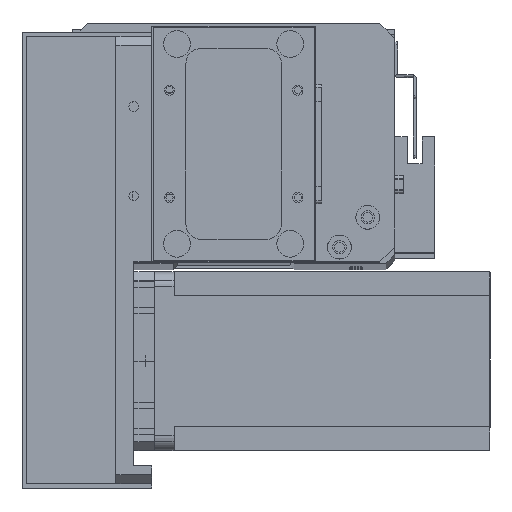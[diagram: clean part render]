
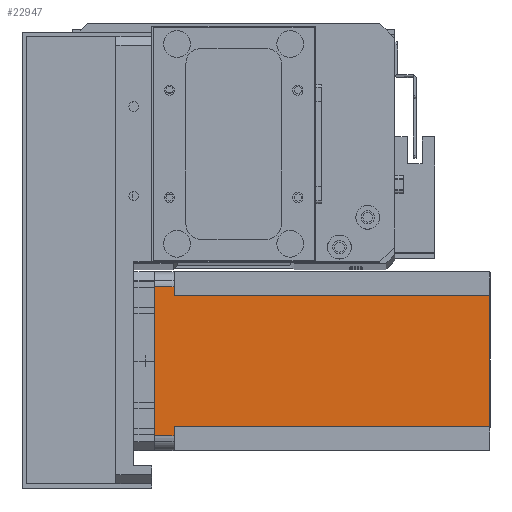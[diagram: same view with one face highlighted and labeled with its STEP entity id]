
A CAD part, top view. The second image highlights one B-rep face of the part: STEP entity #22947.
In plain terms, the highlighted planar face has unit normal (0, 0, 1) as drawn and (0, 1, 0) by its records, which use the part's own axes.
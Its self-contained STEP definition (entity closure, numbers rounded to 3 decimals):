
#138 = VERTEX_POINT ( 'NONE', #23804 ) ;
#524 = ORIENTED_EDGE ( 'NONE', *, *, #19130, .F. ) ;
#577 = ORIENTED_EDGE ( 'NONE', *, *, #17559, .T. ) ;
#1861 = VECTOR ( 'NONE', #8851, 1000. ) ;
#1927 = ORIENTED_EDGE ( 'NONE', *, *, #11285, .T. ) ;
#2486 = CARTESIAN_POINT ( 'NONE',  ( 8., 60., -112.5 ) ) ;
#2564 = CARTESIAN_POINT ( 'NONE',  ( 52., 60., -112.5 ) ) ;
#2831 = VECTOR ( 'NONE', #27248, 1000. ) ;
#4376 = VECTOR ( 'NONE', #10716, 1000. ) ;
#4421 = EDGE_CURVE ( 'NONE', #17792, #24921, #14379, .T. ) ;
#4846 = EDGE_CURVE ( 'NONE', #21705, #19340, #11733, .T. ) ;
#5084 = CARTESIAN_POINT ( 'NONE',  ( 0., 60., -112.5 ) ) ;
#5814 = CARTESIAN_POINT ( 'NONE',  ( 52., 60., -6.5 ) ) ;
#7730 = LINE ( 'NONE', #25384, #1861 ) ;
#8157 = EDGE_CURVE ( 'NONE', #21705, #25019, #26392, .T. ) ;
#8666 = CARTESIAN_POINT ( 'NONE',  ( 5., 60., -112.5 ) ) ;
#8772 = EDGE_LOOP ( 'NONE', ( #30449, #13172, #21158, #524, #577, #10060, #30055, #1927 ) ) ;
#8848 = DIRECTION ( 'NONE',  ( 0., 0., 1. ) ) ;
#8851 = DIRECTION ( 'NONE',  ( -1., 0., 0. ) ) ;
#10039 = CARTESIAN_POINT ( 'NONE',  ( 52., 60., -112.5 ) ) ;
#10060 = ORIENTED_EDGE ( 'NONE', *, *, #20593, .F. ) ;
#10716 = DIRECTION ( 'NONE',  ( -1., 0., 0. ) ) ;
#10817 = CARTESIAN_POINT ( 'NONE',  ( 0., 60., 0. ) ) ;
#11285 = EDGE_CURVE ( 'NONE', #24921, #19340, #14922, .T. ) ;
#11617 = VERTEX_POINT ( 'NONE', #2564 ) ;
#11733 = LINE ( 'NONE', #10817, #4376 ) ;
#12115 = EDGE_CURVE ( 'NONE', #29289, #25019, #17828, .T. ) ;
#12353 = AXIS2_PLACEMENT_3D ( 'NONE', #5084, #28860, #14903 ) ;
#12540 = PLANE ( 'NONE',  #12353 ) ;
#13003 = CARTESIAN_POINT ( 'NONE',  ( 55., 60., -6.5 ) ) ;
#13172 = ORIENTED_EDGE ( 'NONE', *, *, #8157, .T. ) ;
#14379 = LINE ( 'NONE', #25005, #2831 ) ;
#14880 = DIRECTION ( 'NONE',  ( 0., 0., 1. ) ) ;
#14903 = DIRECTION ( 'NONE',  ( 0., 0., 1. ) ) ;
#14922 = LINE ( 'NONE', #8666, #20490 ) ;
#17106 = DIRECTION ( 'NONE',  ( 0., 0., -1. ) ) ;
#17559 = EDGE_CURVE ( 'NONE', #11617, #138, #7730, .T. ) ;
#17792 = VERTEX_POINT ( 'NONE', #28515 ) ;
#17815 = DIRECTION ( 'NONE',  ( 1., 0., 0. ) ) ;
#17828 = LINE ( 'NONE', #20228, #28719 ) ;
#19130 = EDGE_CURVE ( 'NONE', #11617, #29289, #28326, .T. ) ;
#19340 = VERTEX_POINT ( 'NONE', #22583 ) ;
#20228 = CARTESIAN_POINT ( 'NONE',  ( 52., 60., -6.5 ) ) ;
#20320 = VECTOR ( 'NONE', #22536, 1000. ) ;
#20490 = VECTOR ( 'NONE', #8848, 1000. ) ;
#20593 = EDGE_CURVE ( 'NONE', #17792, #138, #23763, .T. ) ;
#21158 = ORIENTED_EDGE ( 'NONE', *, *, #12115, .F. ) ;
#21705 = VERTEX_POINT ( 'NONE', #23853 ) ;
#22190 = CARTESIAN_POINT ( 'NONE',  ( 5., 60., -6.5 ) ) ;
#22231 = VECTOR ( 'NONE', #14880, 1000. ) ;
#22250 = FACE_OUTER_BOUND ( 'NONE', #8772, .T. ) ;
#22536 = DIRECTION ( 'NONE',  ( 0., 0., -1. ) ) ;
#22583 = CARTESIAN_POINT ( 'NONE',  ( 5., 60., 0. ) ) ;
#22947 = ADVANCED_FACE ( 'NONE', ( #22250 ), #12540, .T. ) ;
#23763 = LINE ( 'NONE', #2486, #29971 ) ;
#23804 = CARTESIAN_POINT ( 'NONE',  ( 8., 60., -112.5 ) ) ;
#23853 = CARTESIAN_POINT ( 'NONE',  ( 55., 60., 0. ) ) ;
#24921 = VERTEX_POINT ( 'NONE', #22190 ) ;
#25005 = CARTESIAN_POINT ( 'NONE',  ( 8., 60., -6.5 ) ) ;
#25019 = VERTEX_POINT ( 'NONE', #13003 ) ;
#25384 = CARTESIAN_POINT ( 'NONE',  ( 0., 60., -112.5 ) ) ;
#26392 = LINE ( 'NONE', #26410, #20320 ) ;
#26410 = CARTESIAN_POINT ( 'NONE',  ( 55., 60., -112.5 ) ) ;
#27248 = DIRECTION ( 'NONE',  ( -1., 0., 0. ) ) ;
#28326 = LINE ( 'NONE', #10039, #22231 ) ;
#28515 = CARTESIAN_POINT ( 'NONE',  ( 8., 60., -6.5 ) ) ;
#28719 = VECTOR ( 'NONE', #17815, 1000. ) ;
#28860 = DIRECTION ( 'NONE',  ( 0., 1., 0. ) ) ;
#29289 = VERTEX_POINT ( 'NONE', #5814 ) ;
#29971 = VECTOR ( 'NONE', #17106, 1000. ) ;
#30055 = ORIENTED_EDGE ( 'NONE', *, *, #4421, .T. ) ;
#30449 = ORIENTED_EDGE ( 'NONE', *, *, #4846, .F. ) ;
